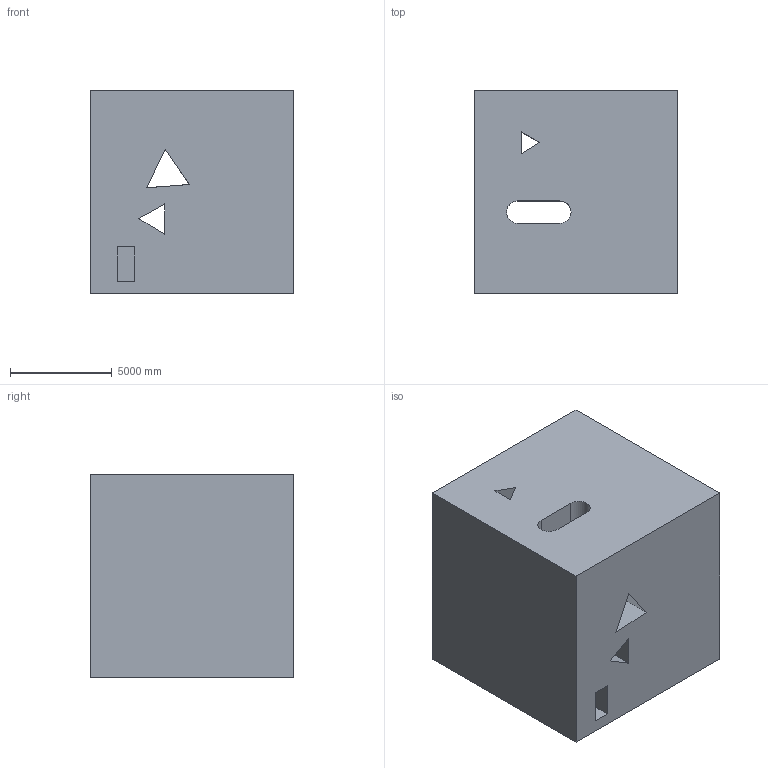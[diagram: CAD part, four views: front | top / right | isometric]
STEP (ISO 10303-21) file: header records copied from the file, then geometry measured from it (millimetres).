
FILE_DESCRIPTION (( 'STEP AP203' ), '1' );
FILE_NAME ('163.STEP', '2022-09-06T12:37:28', ( 'user' ), ( '' ), 'SwSTEP 2.0', 'SolidWorks 2021', '' );
FILE_SCHEMA (( 'CONFIG_CONTROL_DESIGN' ));
Length unit declared in the file: centimetre
Products named in the file (1): 163
Bounding box: 10000 x 10000 x 10000 mm (x, y, z)
Volume: 899823538239.1 mm3; surface area: 829771785.6 mm2
Topology: 1 solids, 1 shells, 39 faces, 123 edges, 82 vertices
Faces by surface type: plane 33, cylinder 6
Entity records: 1456 total; most frequent: CARTESIAN_POINT 251, ORIENTED_EDGE 246, DIRECTION 211, EDGE_CURVE 123, LINE 111, VECTOR 111, VERTEX_POINT 82, EDGE_LOOP 51
